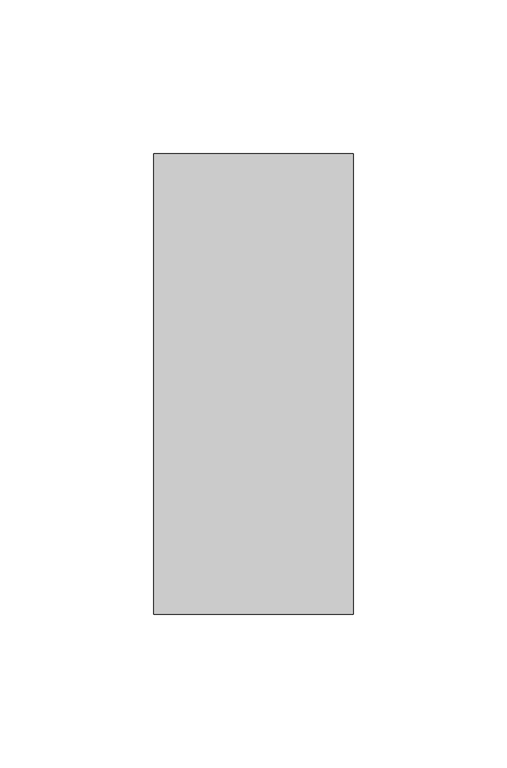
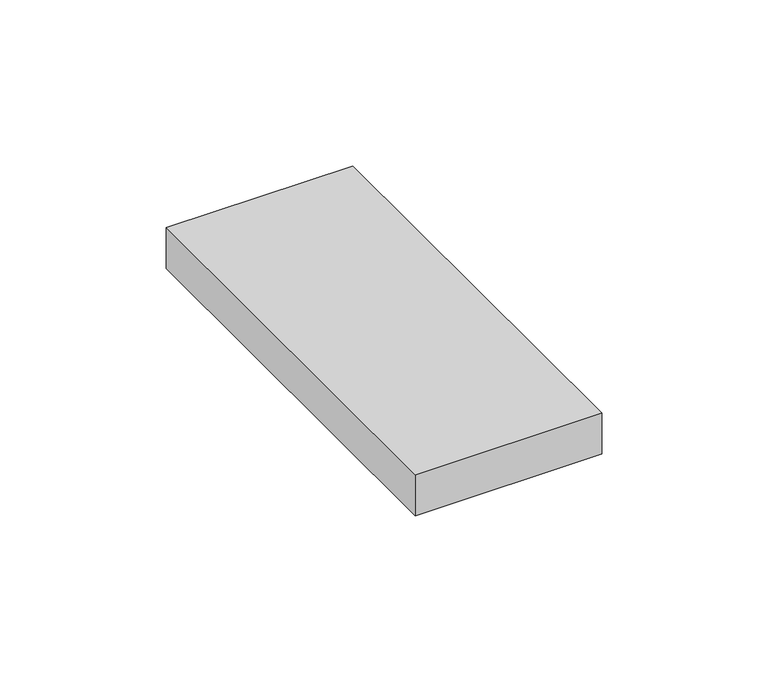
"""IFC4 building model written with IfcOpenShell, lengths in millimetres: duct fitting geometry, Заглушка торцевая - для односекционных кабель-каналов DLP - белый : 65х150мм."""

import ifcopenshell
import ifcopenshell.guid

model = None  # the IFC model being written
_history = None  # IfcOwnerHistory: only IFC2X3 demands one
_inside = {}  # id of a spatial element -> (the spatial element, [elements in it])
_under = {}  # id of a project, library or spatial element -> (it, [spatial elements below it])
_declared = {}  # id of a project -> (the project, [libraries it declares])
_typed = {}  # id of a type object -> (the type object, [elements of that type])
_made_of = {}  # id of a material, layer set ... -> (it, [elements and type objects made of it])


def new_model(schema):
    """Start an empty IFC model of exactly this schema.

    Asked for "IFC4X3", IfcOpenShell would pick the latest addendum, in which some entities
    have other attributes; the version numbers below select the first issue.
    IFC2X3 requires an IfcOwnerHistory on every rooted entity: one is made here for all.
    """
    global model, _history
    if schema == "IFC4X3":
        model = ifcopenshell.file(schema_version=(4, 3, 0, 0))
    else:
        model = ifcopenshell.file(schema=schema)
    _inside.clear()
    _under.clear()
    _declared.clear()
    _typed.clear()
    _made_of.clear()
    _history = None
    if model.schema == "IFC2X3":
        org = make("IfcOrganization", Name="unknown")
        user = make(
            "IfcPersonAndOrganization",
            ThePerson=make("IfcPerson", FamilyName="unknown"),
            TheOrganization=org,
        )
        app = make(
            "IfcApplication",
            ApplicationDeveloper=org,
            Version="unknown",
            ApplicationFullName="unknown",
            ApplicationIdentifier="unknown",
        )
        _history = make(
            "IfcOwnerHistory",
            OwningUser=user,
            OwningApplication=app,
            ChangeAction="ADDED",
            CreationDate=0,
        )
    return model


def make(cls, **values):
    """One entity of the class cls with the attributes given. An attribute that is None is left unset."""
    return model.create_entity(
        cls, **{name: value for name, value in values.items() if value is not None}
    )


def rooted(cls, **values):
    """An entity with a GlobalId (a new one), such as an element, a storey or a relation."""
    return make(cls, GlobalId=ifcopenshell.guid.new(), OwnerHistory=_history, **values)


def si_unit(unit_type, name, prefix=None):
    """IfcSIUnit, for example si_unit("LENGTHUNIT", "METRE", prefix="MILLI")."""
    return make("IfcSIUnit", UnitType=unit_type, Prefix=prefix, Name=name)


def assignment(units):
    """IfcUnitAssignment: the units of a project."""
    return None if units is None else make("IfcUnitAssignment", Units=units)


def point(xyz):
    """IfcCartesianPoint."""
    return None if xyz is None else make("IfcCartesianPoint", Coordinates=xyz)


def direction(xyz):
    """IfcDirection."""
    return None if xyz is None else make("IfcDirection", DirectionRatios=xyz)


def frame(location, z_axis=None, x_axis=None):
    """IfcAxis2Placement3D, a coordinate frame: its origin and axes. An axis left out is left unset."""
    return make(
        "IfcAxis2Placement3D",
        Location=point(location),
        Axis=direction(z_axis),
        RefDirection=direction(x_axis),
    )


def origin():
    """The frame at (0, 0, 0) with its axes left unset."""
    return frame((0.0, 0.0, 0.0))


def origin_with_axes():
    """The frame at (0, 0, 0) with the z axis (0, 0, 1) and the x axis (1, 0, 0) written out."""
    return frame((0.0, 0.0, 0.0), z_axis=(0.0, 0.0, 1.0), x_axis=(1.0, 0.0, 0.0))


def place(relative_to, where):
    """IfcLocalPlacement: puts the frame where relative to a parent placement (None: the world)."""
    return make(
        "IfcLocalPlacement", PlacementRelTo=relative_to, RelativePlacement=where
    )


def context(
    kind, dimensions, precision=None, world=None, true_north=None, identifier=None
):
    """IfcGeometricRepresentationContext, for example the 3D "Model" context."""
    return make(
        "IfcGeometricRepresentationContext",
        ContextIdentifier=identifier,
        ContextType=kind,
        CoordinateSpaceDimension=dimensions,
        Precision=precision,
        WorldCoordinateSystem=world,
        TrueNorth=true_north,
    )


def project(units=None, contexts=None):
    """IfcProject with its units and contexts."""
    return rooted(
        "IfcProject",
        Name="project",
        RepresentationContexts=contexts,
        UnitsInContext=assignment(units),
    )


def spatial(cls, under=None, at=None, **own):
    """A site, building, storey or space (cls), placed at a placement, below another one or the project."""
    s = rooted(cls, ObjectPlacement=at, **own)
    if under is not None:
        _under.setdefault(under.id(), (under, []))[1].append(s)
    return s


def polyline(points):
    """IfcPolyline through the points."""
    return make("IfcPolyline", Points=[point(p) for p in points])


def outline(outer, holes=None, kind="AREA"):
    """IfcArbitraryClosedProfileDef: a profile drawn as a closed curve; with holes, ...WithVoids."""
    if holes is None:
        return make("IfcArbitraryClosedProfileDef", ProfileType=kind, OuterCurve=outer)
    return make(
        "IfcArbitraryProfileDefWithVoids",
        ProfileType=kind,
        OuterCurve=outer,
        InnerCurves=holes,
    )


def extrude(swept, where, along, depth):
    """IfcExtrudedAreaSolid: the profile swept, set in the frame where, extruded along a direction by depth."""
    return make(
        "IfcExtrudedAreaSolid",
        SweptArea=swept,
        Position=where,
        ExtrudedDirection=direction(along),
        Depth=depth,
    )


def shape(context_of_items, identifier, shape_type, items):
    """IfcShapeRepresentation: the items that make up one representation, for example the "Body"."""
    return make(
        "IfcShapeRepresentation",
        ContextOfItems=context_of_items,
        RepresentationIdentifier=identifier,
        RepresentationType=shape_type,
        Items=items,
    )


def source(mapping_origin, context_of_items, identifier, shape_type, items):
    """IfcRepresentationMap: a shape defined once, which mapped items show again and again."""
    return make(
        "IfcRepresentationMap",
        MappingOrigin=mapping_origin,
        MappedRepresentation=shape(context_of_items, identifier, shape_type, items),
    )


def transform(
    local_origin,
    x_axis=None,
    y_axis=None,
    z_axis=None,
    scale=None,
    scale2=None,
    scale3=None,
    uniform=True,
):
    """IfcCartesianTransformationOperator3D, or its non-uniform kind. x_axis, y_axis, z_axis: its Axis1, 2, 3."""
    if uniform:
        return make(
            "IfcCartesianTransformationOperator3D",
            Axis1=direction(x_axis),
            Axis2=direction(y_axis),
            LocalOrigin=point(local_origin),
            Scale=scale,
            Axis3=direction(z_axis),
        )
    return make(
        "IfcCartesianTransformationOperator3DnonUniform",
        Axis1=direction(x_axis),
        Axis2=direction(y_axis),
        LocalOrigin=point(local_origin),
        Scale=scale,
        Axis3=direction(z_axis),
        Scale2=scale2,
        Scale3=scale3,
    )


def mapped(mapping_source, mapping_target):
    """IfcMappedItem: shows the shape of a source again, moved by a transform."""
    return make(
        "IfcMappedItem", MappingSource=mapping_source, MappingTarget=mapping_target
    )


def made_of(thing, what):
    """Note that an element or type object is made of a material, layer set ...; save() writes the relation."""
    if what is not None:
        _made_of.setdefault(what.id(), (what, []))[1].append(thing)
    return thing


def element(
    cls,
    number,
    at=None,
    inside=None,
    cuts=None,
    type_object=None,
    material=None,
    context=None,
    identifier="Body",
    shape_type=None,
    held_by="IfcProductDefinitionShape",
    body=None,
    shapes=None,
    **own,
):
    """One element of the class cls, such as IfcWall. Its Tag is "e" and its number.

    at: its placement. inside: the storey or other place that contains it. cuts: it is an
    opening in that element (IfcRelVoidsElement). A single representation is given by context,
    identifier, shape_type and body (its items); several are given by shapes. held_by: the class
    of the entity that holds the representations. save() writes the other relations.
    """
    e = rooted(cls, Tag="e%d" % number, ObjectPlacement=at, **own)
    if body is not None:
        shapes = [shape(context, identifier, shape_type, body)]
    if shapes is not None:
        e.Representation = make(held_by, Representations=shapes)
    if inside is not None:
        _inside.setdefault(inside.id(), (inside, []))[1].append(e)
    if cuts is not None:
        rooted(
            "IfcRelVoidsElement", RelatingBuildingElement=cuts, RelatedOpeningElement=e
        )
    if type_object is not None:
        _typed.setdefault(type_object.id(), (type_object, []))[1].append(e)
    return made_of(e, material)


def aggregate(whole, parts):
    """IfcRelAggregates: a whole, such as a stair, and the parts it consists of."""
    return rooted("IfcRelAggregates", RelatingObject=whole, RelatedObjects=parts)


def save(model, path):
    """Write the relations noted so far, then the file.

    IfcRelAggregates (storeys below a building ...), IfcRelContainedInSpatialStructure (elements
    in a storey), IfcRelDefinesByType, IfcRelAssociatesMaterial and IfcRelDeclares: one each for
    every whole, place, type object, material and project.
    """
    for whole, parts in _under.values():
        aggregate(whole, parts)
    for where, things in _inside.values():
        rooted(
            "IfcRelContainedInSpatialStructure",
            RelatedElements=things,
            RelatingStructure=where,
        )
    for kind, things in _typed.values():
        rooted("IfcRelDefinesByType", RelatedObjects=things, RelatingType=kind)
    for what, things in _made_of.values():
        rooted("IfcRelAssociatesMaterial", RelatedObjects=things, RelatingMaterial=what)
    for by, libraries in _declared.values():
        rooted("IfcRelDeclares", RelatingContext=by, RelatedDefinitions=libraries)
    model.write(path)


def duct_fitting_d5090730(model_context):
    return source(origin(), model_context, "Body", "SweptSolid", [
        extrude(outline(polyline([(32.5, 75.0), (32.5, -75.0), (-32.5, -75.0), (-32.5, 75.0), (32.5, 75.0)])), origin_with_axes(), (0.0, 0.0, 1.0), 15.0),
    ])


if __name__ == "__main__":
    model = new_model("IFC4")
    model_context = context("Model", 3, world=origin())
    ifc_project = project(units=[si_unit("LENGTHUNIT", "METRE", prefix="MILLI")], contexts=[model_context])
    site = spatial("IfcSite", under=ifc_project)
    building = spatial("IfcBuilding", under=site)
    placement = place(None, origin())
    duct_fitting_shape = duct_fitting_d5090730(model_context)
    element("IfcDuctFitting", 1, ObjectType="Заглушка торцевая - для односекционных кабель-каналов DLP - белый : 65х150мм", at=placement, inside=building, context=model_context, shape_type="MappedRepresentation", body=[
        mapped(duct_fitting_shape, transform((0.0, 0.0, 0.0), x_axis=(1.0, 0.0, 0.0), y_axis=(0.0, 1.0, 0.0), z_axis=(0.0, 0.0, 1.0))),
    ])
    save(model, "model.ifc")
